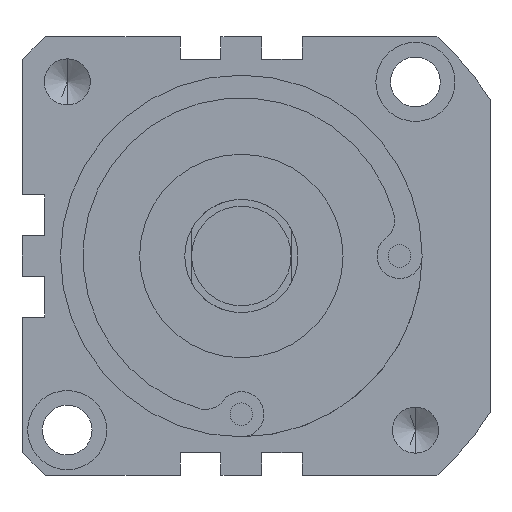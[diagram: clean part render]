
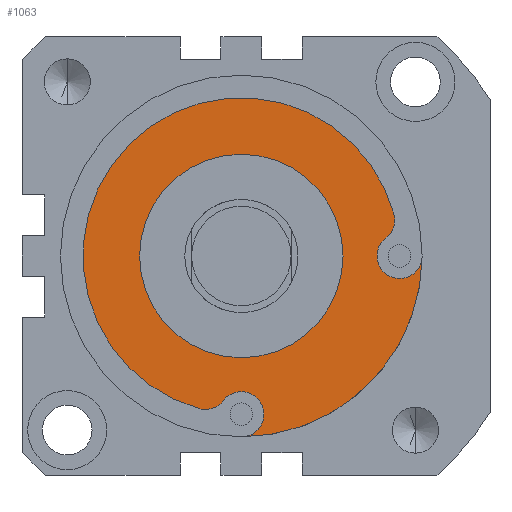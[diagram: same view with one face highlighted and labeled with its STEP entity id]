
A CAD part, front view. The second image highlights one B-rep face of the part: STEP entity #1063.
In plain terms, the highlighted planar face has unit normal (0, -1, 0).
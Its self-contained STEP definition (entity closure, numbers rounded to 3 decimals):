
#62 = DIRECTION ( 'NONE',  ( 0., 0., 1. ) ) ;
#104 = ORIENTED_EDGE ( 'NONE', *, *, #2373, .T. ) ;
#170 = CARTESIAN_POINT ( 'NONE',  ( 0., -71.5, -35. ) ) ;
#180 = FACE_BOUND ( 'NONE', #627, .T. ) ;
#190 = AXIS2_PLACEMENT_3D ( 'NONE', #820, #2142, #208 ) ;
#198 = VERTEX_POINT ( 'NONE', #889 ) ;
#208 = DIRECTION ( 'NONE',  ( 0., 0., 1. ) ) ;
#261 = EDGE_CURVE ( 'NONE', #2507, #2882, #3637, .T. ) ;
#308 = DIRECTION ( 'NONE',  ( 0., 0., 1. ) ) ;
#321 = CIRCLE ( 'NONE', #4090, 5. ) ;
#340 = DIRECTION ( 'NONE',  ( 0., 0., 1. ) ) ;
#346 = ORIENTED_EDGE ( 'NONE', *, *, #1219, .T. ) ;
#453 = DIRECTION ( 'NONE',  ( 0., -1., 0. ) ) ;
#603 = DIRECTION ( 'NONE',  ( 0., 1., 0. ) ) ;
#621 = CARTESIAN_POINT ( 'NONE',  ( 0., -71.5, -22.5 ) ) ;
#622 = CIRCLE ( 'NONE', #1031, 5. ) ;
#627 = EDGE_LOOP ( 'NONE', ( #1624, #4219 ) ) ;
#641 = EDGE_LOOP ( 'NONE', ( #3406, #104, #3205, #1121, #2006, #346, #4255, #2583 ) ) ;
#700 = VERTEX_POINT ( 'NONE', #2281 ) ;
#726 = DIRECTION ( 'NONE',  ( 0., 0., -1. ) ) ;
#755 = CARTESIAN_POINT ( 'NONE',  ( 0., -71.5, 0. ) ) ;
#820 = CARTESIAN_POINT ( 'NONE',  ( 0., -71.5, 0. ) ) ;
#845 = CARTESIAN_POINT ( 'NONE',  ( -7.946, -71.5, -28.929 ) ) ;
#889 = CARTESIAN_POINT ( 'NONE',  ( 35., -71.5, -5. ) ) ;
#993 = CARTESIAN_POINT ( 'NONE',  ( 0., -71.5, 0. ) ) ;
#1031 = AXIS2_PLACEMENT_3D ( 'NONE', #3539, #3495, #2893 ) ;
#1054 = EDGE_CURVE ( 'NONE', #2837, #4270, #2812, .T. ) ;
#1063 = ADVANCED_FACE ( 'NONE', ( #1761, #180 ), #1827, .T. ) ;
#1078 = AXIS2_PLACEMENT_3D ( 'NONE', #1317, #2326, #62 ) ;
#1121 = ORIENTED_EDGE ( 'NONE', *, *, #2447, .F. ) ;
#1219 = EDGE_CURVE ( 'NONE', #4113, #2837, #1963, .T. ) ;
#1317 = CARTESIAN_POINT ( 'NONE',  ( 35., -71.5, 0. ) ) ;
#1330 = DIRECTION ( 'NONE',  ( 0., 1., 0. ) ) ;
#1382 = CARTESIAN_POINT ( 'NONE',  ( -7.946, -71.5, -28.929 ) ) ;
#1427 = VERTEX_POINT ( 'NONE', #1450 ) ;
#1450 = CARTESIAN_POINT ( 'NONE',  ( 31.964, -71.5, 3.973 ) ) ;
#1624 = ORIENTED_EDGE ( 'NONE', *, *, #4009, .T. ) ;
#1626 = CARTESIAN_POINT ( 'NONE',  ( 35., -71.5, 0. ) ) ;
#1751 = DIRECTION ( 'NONE',  ( 0., 0., 1. ) ) ;
#1761 = FACE_OUTER_BOUND ( 'NONE', #641, .T. ) ;
#1827 = PLANE ( 'NONE',  #190 ) ;
#1843 = EDGE_CURVE ( 'NONE', #700, #198, #3162, .T. ) ;
#1904 = CIRCLE ( 'NONE', #1078, 5. ) ;
#1906 = AXIS2_PLACEMENT_3D ( 'NONE', #993, #1330, #340 ) ;
#1930 = CARTESIAN_POINT ( 'NONE',  ( 33.75, -71.5, 9.27 ) ) ;
#1941 = DIRECTION ( 'NONE',  ( 0., 0., 1. ) ) ;
#1963 = CIRCLE ( 'NONE', #3498, 5. ) ;
#2006 = ORIENTED_EDGE ( 'NONE', *, *, #3631, .T. ) ;
#2057 = DIRECTION ( 'NONE',  ( 0., 1., 0. ) ) ;
#2113 = DIRECTION ( 'NONE',  ( 0., 1., 0. ) ) ;
#2142 = DIRECTION ( 'NONE',  ( 0., -1., 0. ) ) ;
#2242 = EDGE_CURVE ( 'NONE', #700, #4270, #4198, .T. ) ;
#2257 = AXIS2_PLACEMENT_3D ( 'NONE', #755, #2057, #1751 ) ;
#2260 = CARTESIAN_POINT ( 'NONE',  ( -3.973, -71.5, -31.964 ) ) ;
#2281 = CARTESIAN_POINT ( 'NONE',  ( 40., -71.5, 0. ) ) ;
#2293 = CARTESIAN_POINT ( 'NONE',  ( 0., -71.5, -40. ) ) ;
#2317 = CARTESIAN_POINT ( 'NONE',  ( -7.946, -71.5, -33.929 ) ) ;
#2326 = DIRECTION ( 'NONE',  ( 0., 1., 0. ) ) ;
#2373 = EDGE_CURVE ( 'NONE', #198, #1427, #1904, .T. ) ;
#2447 = EDGE_CURVE ( 'NONE', #3972, #2925, #3840, .T. ) ;
#2505 = DIRECTION ( 'NONE',  ( 0., 0., -1. ) ) ;
#2507 = VERTEX_POINT ( 'NONE', #3730 ) ;
#2520 = DIRECTION ( 'NONE',  ( 0., 0., 1. ) ) ;
#2582 = CARTESIAN_POINT ( 'NONE',  ( 0., -71.5, 0. ) ) ;
#2583 = ORIENTED_EDGE ( 'NONE', *, *, #2242, .F. ) ;
#2812 = CIRCLE ( 'NONE', #4248, 5. ) ;
#2837 = VERTEX_POINT ( 'NONE', #2260 ) ;
#2882 = VERTEX_POINT ( 'NONE', #621 ) ;
#2893 = DIRECTION ( 'NONE',  ( 0., 0., -1. ) ) ;
#2925 = VERTEX_POINT ( 'NONE', #1930 ) ;
#2952 = AXIS2_PLACEMENT_3D ( 'NONE', #1626, #3656, #3626 ) ;
#3159 = CIRCLE ( 'NONE', #3491, 22.5 ) ;
#3162 = CIRCLE ( 'NONE', #2952, 5. ) ;
#3205 = ORIENTED_EDGE ( 'NONE', *, *, #4218, .T. ) ;
#3271 = CARTESIAN_POINT ( 'NONE',  ( 0., -71.5, 0. ) ) ;
#3406 = ORIENTED_EDGE ( 'NONE', *, *, #1843, .T. ) ;
#3443 = AXIS2_PLACEMENT_3D ( 'NONE', #3271, #3923, #1941 ) ;
#3491 = AXIS2_PLACEMENT_3D ( 'NONE', #2582, #603, #308 ) ;
#3495 = DIRECTION ( 'NONE',  ( 0., -1., 0. ) ) ;
#3498 = AXIS2_PLACEMENT_3D ( 'NONE', #845, #3517, #2505 ) ;
#3517 = DIRECTION ( 'NONE',  ( 0., -1., 0. ) ) ;
#3539 = CARTESIAN_POINT ( 'NONE',  ( 28.929, -71.5, 7.946 ) ) ;
#3626 = DIRECTION ( 'NONE',  ( 0., 0., 1. ) ) ;
#3631 = EDGE_CURVE ( 'NONE', #3972, #4113, #321, .T. ) ;
#3637 = CIRCLE ( 'NONE', #3443, 22.5 ) ;
#3656 = DIRECTION ( 'NONE',  ( 0., 1., 0. ) ) ;
#3730 = CARTESIAN_POINT ( 'NONE',  ( 0., -71.5, 22.5 ) ) ;
#3840 = CIRCLE ( 'NONE', #2257, 35. ) ;
#3923 = DIRECTION ( 'NONE',  ( 0., 1., 0. ) ) ;
#3972 = VERTEX_POINT ( 'NONE', #4160 ) ;
#4009 = EDGE_CURVE ( 'NONE', #2882, #2507, #3159, .T. ) ;
#4090 = AXIS2_PLACEMENT_3D ( 'NONE', #1382, #453, #726 ) ;
#4113 = VERTEX_POINT ( 'NONE', #2317 ) ;
#4160 = CARTESIAN_POINT ( 'NONE',  ( -9.27, -71.5, -33.75 ) ) ;
#4198 = CIRCLE ( 'NONE', #1906, 40. ) ;
#4219 = ORIENTED_EDGE ( 'NONE', *, *, #261, .T. ) ;
#4218 = EDGE_CURVE ( 'NONE', #1427, #2925, #622, .T. ) ;
#4248 = AXIS2_PLACEMENT_3D ( 'NONE', #170, #2113, #2520 ) ;
#4255 = ORIENTED_EDGE ( 'NONE', *, *, #1054, .T. ) ;
#4270 = VERTEX_POINT ( 'NONE', #2293 ) ;
